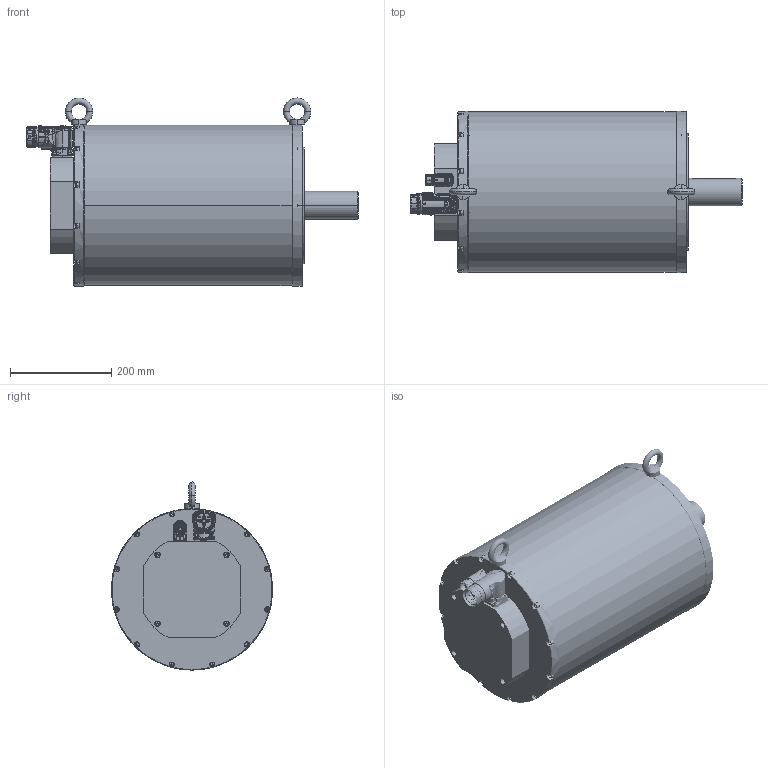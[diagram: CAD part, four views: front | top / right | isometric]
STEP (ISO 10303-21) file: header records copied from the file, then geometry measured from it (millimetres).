
FILE_DESCRIPTION(('CATIA V5 STEP Exchange'),'2;1');
FILE_NAME('C:\Documents and Settings\max\Documenti\sangallimotori\3d step\tg8\motore_DGM5_83.stp','2010-12-12T15:30:39+00:00',('none'),('none'),'CATIA Version 5 Release 10 (IN-8)','CATIA V5 STEP AP203',' none');
FILE_SCHEMA(('CONFIG_CONTROL_DESIGN'));
Length unit declared in the file: millimetre
Assembly tree (60 placements, depth 0):
Bounding box: 654.5 x 317.89 x 370.78 mm (x, y, z)
Volume: 37278499.9 mm3; surface area: 1175498.1 mm2
Topology: 56 solids, 60 shells, 5171 faces, 16780 edges, 11797 vertices
Faces by surface type: cylinder 1631, bspline 1305, plane 1101, cone 499, torus 484, sphere 151
Entity records: 266616 total; most frequent: CARTESIAN_POINT 168630, ORIENTED_EDGE 27214, EDGE_CURVE 13716, DIRECTION 10038, VERTEX_POINT 9919, B_SPLINE_CURVE_WITH_KNOTS 8134, AXIS2_PLACEMENT_3D 5023, EDGE_LOOP 4206
